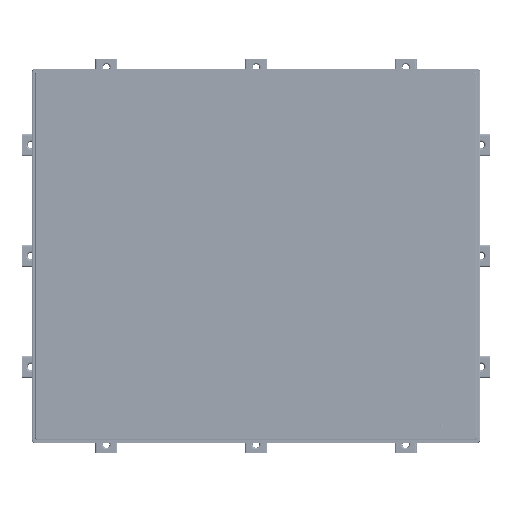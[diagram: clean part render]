
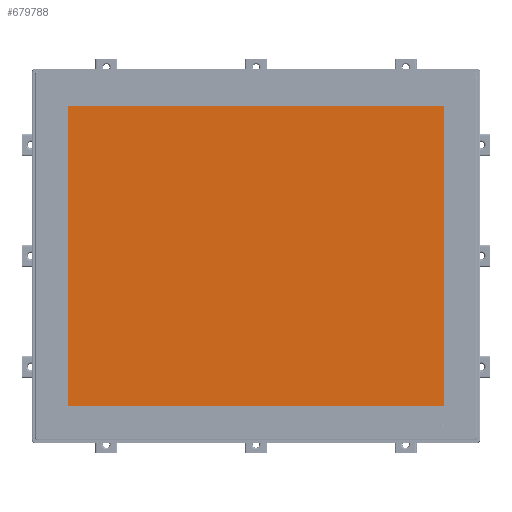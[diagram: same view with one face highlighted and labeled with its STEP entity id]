
A CAD part, top view. The second image highlights one B-rep face of the part: STEP entity #679788.
In plain terms, the highlighted planar face has unit normal (0, 0, 1).
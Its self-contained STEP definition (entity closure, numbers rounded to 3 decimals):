
#179451=DIRECTION('',(0.,1.,0.));
#179452=VECTOR('',#179451,271.);
#179453=CARTESIAN_POINT('',(169.25,-135.5,5.2));
#179454=LINE('',#179453,#179452);
#179455=DIRECTION('',(1.,0.,0.));
#179456=VECTOR('',#179455,46.75);
#179457=CARTESIAN_POINT('',(122.5,-135.5,5.2));
#179458=LINE('',#179457,#179456);
#179459=DIRECTION('',(0.,1.,0.));
#179460=VECTOR('',#179459,0.25);
#179461=CARTESIAN_POINT('',(122.5,-135.75,5.2));
#179462=LINE('',#179461,#179460);
#179463=DIRECTION('',(0.,1.,0.));
#179464=VECTOR('',#179463,0.25);
#179465=CARTESIAN_POINT('',(117.5,-135.75,5.2));
#179466=LINE('',#179465,#179464);
#179467=DIRECTION('',(1.,0.,0.));
#179468=VECTOR('',#179467,235.);
#179469=CARTESIAN_POINT('',(-117.5,-135.5,5.2));
#179470=LINE('',#179469,#179468);
#179471=DIRECTION('',(0.,1.,0.));
#179472=VECTOR('',#179471,0.25);
#179473=CARTESIAN_POINT('',(-117.5,-135.75,5.2));
#179474=LINE('',#179473,#179472);
#179475=DIRECTION('',(0.,1.,0.));
#179476=VECTOR('',#179475,0.25);
#179477=CARTESIAN_POINT('',(-122.5,-135.75,5.2));
#179478=LINE('',#179477,#179476);
#179479=DIRECTION('',(1.,0.,0.));
#179480=VECTOR('',#179479,46.75);
#179481=CARTESIAN_POINT('',(-169.25,-135.5,5.2));
#179482=LINE('',#179481,#179480);
#179483=DIRECTION('',(0.,-1.,0.));
#179484=VECTOR('',#179483,271.);
#179485=CARTESIAN_POINT('',(-169.25,135.5,5.2));
#179486=LINE('',#179485,#179484);
#179487=DIRECTION('',(-1.,0.,0.));
#179488=VECTOR('',#179487,338.5);
#179489=CARTESIAN_POINT('',(169.25,135.5,5.2));
#179490=LINE('',#179489,#179488);
#202412=DIRECTION('',(-1.,0.,0.));
#202413=VECTOR('',#202412,5.);
#202414=CARTESIAN_POINT('',(-117.5,-135.75,5.2));
#202415=LINE('',#202414,#202413);
#202420=DIRECTION('',(-1.,0.,0.));
#202421=VECTOR('',#202420,5.);
#202422=CARTESIAN_POINT('',(122.5,-135.75,5.2));
#202423=LINE('',#202422,#202421);
#400628=CARTESIAN_POINT('',(169.25,-135.5,5.2));
#400629=CARTESIAN_POINT('',(169.25,135.5,5.2));
#400630=VERTEX_POINT('',#400628);
#400631=VERTEX_POINT('',#400629);
#400632=CARTESIAN_POINT('',(-169.25,-135.5,5.2));
#400633=CARTESIAN_POINT('',(-122.5,-135.5,5.2));
#400634=VERTEX_POINT('',#400632);
#400635=VERTEX_POINT('',#400633);
#400636=CARTESIAN_POINT('',(-117.5,-135.5,5.2));
#400637=CARTESIAN_POINT('',(117.5,-135.5,5.2));
#400638=VERTEX_POINT('',#400636);
#400639=VERTEX_POINT('',#400637);
#400640=CARTESIAN_POINT('',(122.5,-135.5,5.2));
#400641=VERTEX_POINT('',#400640);
#400642=CARTESIAN_POINT('',(-169.25,135.5,5.2));
#400643=VERTEX_POINT('',#400642);
#400644=CARTESIAN_POINT('',(-122.5,-135.75,5.2));
#400645=VERTEX_POINT('',#400644);
#400646=CARTESIAN_POINT('',(-117.5,-135.75,5.2));
#400647=VERTEX_POINT('',#400646);
#400648=CARTESIAN_POINT('',(117.5,-135.75,5.2));
#400649=VERTEX_POINT('',#400648);
#400650=CARTESIAN_POINT('',(122.5,-135.75,5.2));
#400651=VERTEX_POINT('',#400650);
#679758=CARTESIAN_POINT('',(0.,0.,5.2));
#679759=DIRECTION('',(0.,0.,1.));
#679760=DIRECTION('',(1.,0.,0.));
#679761=AXIS2_PLACEMENT_3D('',#679758,#679759,#679760);
#679762=PLANE('',#679761);
#679763=ORIENTED_EDGE('',*,*,#679741,.F.);
#679765=ORIENTED_EDGE('',*,*,#679764,.F.);
#679767=ORIENTED_EDGE('',*,*,#679766,.F.);
#679769=ORIENTED_EDGE('',*,*,#679768,.T.);
#679771=ORIENTED_EDGE('',*,*,#679770,.T.);
#679773=ORIENTED_EDGE('',*,*,#679772,.F.);
#679775=ORIENTED_EDGE('',*,*,#679774,.F.);
#679777=ORIENTED_EDGE('',*,*,#679776,.T.);
#679779=ORIENTED_EDGE('',*,*,#679778,.T.);
#679781=ORIENTED_EDGE('',*,*,#679780,.F.);
#679783=ORIENTED_EDGE('',*,*,#679782,.F.);
#679785=ORIENTED_EDGE('',*,*,#679784,.F.);
#679786=EDGE_LOOP('',(#679763,#679765,#679767,#679769,#679771,#679773,#679775,
#679777,#679779,#679781,#679783,#679785));
#679787=FACE_OUTER_BOUND('',#679786,.F.);
#679788=ADVANCED_FACE('',(#679787),#679762,.T.);
#679741=EDGE_CURVE('',#400630,#400631,#179454,.T.);
#679764=EDGE_CURVE('',#400641,#400630,#179458,.T.);
#679766=EDGE_CURVE('',#400651,#400641,#179462,.T.);
#679768=EDGE_CURVE('',#400651,#400649,#202423,.T.);
#679770=EDGE_CURVE('',#400649,#400639,#179466,.T.);
#679772=EDGE_CURVE('',#400638,#400639,#179470,.T.);
#679774=EDGE_CURVE('',#400647,#400638,#179474,.T.);
#679776=EDGE_CURVE('',#400647,#400645,#202415,.T.);
#679778=EDGE_CURVE('',#400645,#400635,#179478,.T.);
#679780=EDGE_CURVE('',#400634,#400635,#179482,.T.);
#679782=EDGE_CURVE('',#400643,#400634,#179486,.T.);
#679784=EDGE_CURVE('',#400631,#400643,#179490,.T.);
